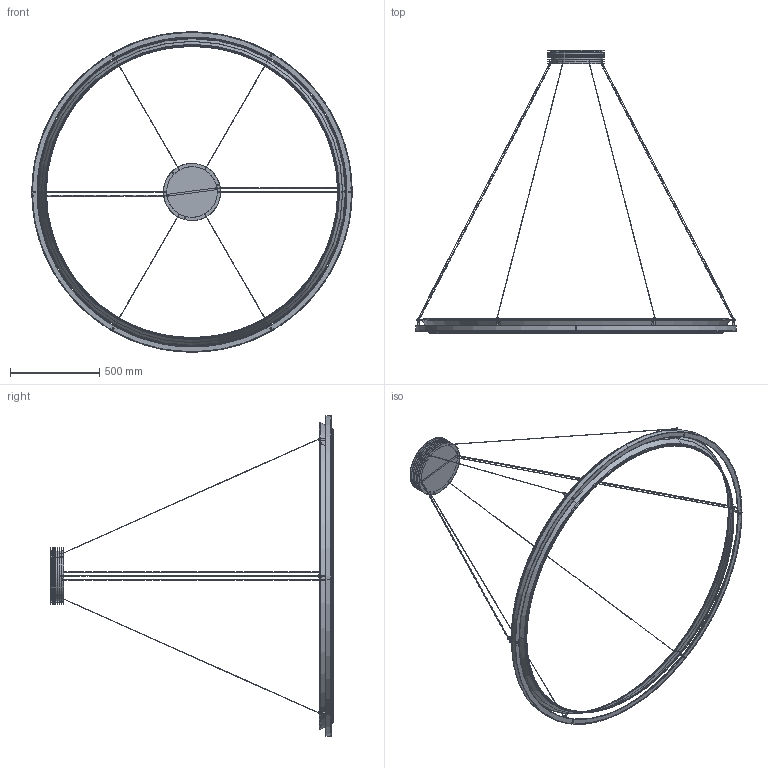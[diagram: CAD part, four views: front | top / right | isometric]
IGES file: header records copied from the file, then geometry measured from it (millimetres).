
Start section: SolidWorks IGES file using analytic representation for surfaces
Global section: file name: C:\SANTACOLE_PDM\Proyectos Catálogo\PROD-P11-003 -- NIMBA LED\6_Técnico comercial\3D\Nimba150.IGS; native system: SolidWorks 2019; preprocessor: SolidWorks 2019; author: louis.ferraz; date: 200406.124758; units: millimetre
Bounding box: 1798 x 1586.11 x 1798 mm (x, y, z)
Surface area: 2276013.7 mm2 (no closed solid volume)
Topology: 0 solids, 0 shells, 1217 faces, 16076 edges, 16064 vertices
Faces by surface type: bspline 623, revolution 594
